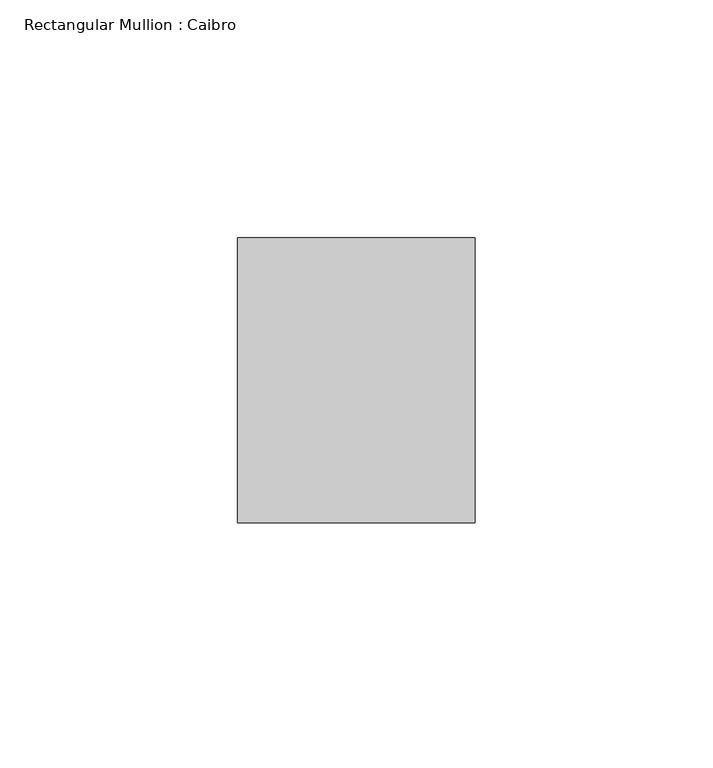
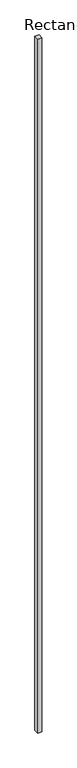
"""IFC4 building model written with IfcOpenShell, lengths in millimetres: member geometry, Rectangular Mullion : Caibro."""

from ifc_helpers import new_model, si_unit, frame, origin, place, context, project, spatial, polyline, outline, extrude, source, transform, mapped, element, save


def rectangular_mullion_caibro_3c31e341(model_context):
    return source(origin(), model_context, "Body", "SweptSolid", [
        extrude(outline(polyline([(-50.0, -60.0), (-50.0, 0.0), (0.0, 0.0), (0.0, -60.0), (-50.0, -60.0)])), frame((0.0, 0.0, -8943.4436228), z_axis=(0.0, 0.0, 1.0), x_axis=(1.0, 0.0, 0.0)), (0.0, 0.0, 1.0), 8943.4436228),
    ])


if __name__ == "__main__":
    model = new_model("IFC4")
    model_context = context("Model", 3, world=origin())
    ifc_project = project(units=[si_unit("LENGTHUNIT", "METRE", prefix="MILLI")], contexts=[model_context])
    site = spatial("IfcSite", under=ifc_project)
    building = spatial("IfcBuilding", under=site)
    placement = place(None, origin())
    rectangular_mullion_caibro_shape = rectangular_mullion_caibro_3c31e341(model_context)
    element("IfcMember", 1, ObjectType="Rectangular Mullion : Caibro", at=placement, inside=building, context=model_context, shape_type="MappedRepresentation", body=[
        mapped(rectangular_mullion_caibro_shape, transform((0.0, 0.0, 0.0), x_axis=(1.0, 0.0, 0.0), y_axis=(0.0, 1.0, 0.0), z_axis=(0.0, 0.0, 1.0))),
    ])
    save(model, "model.ifc")
